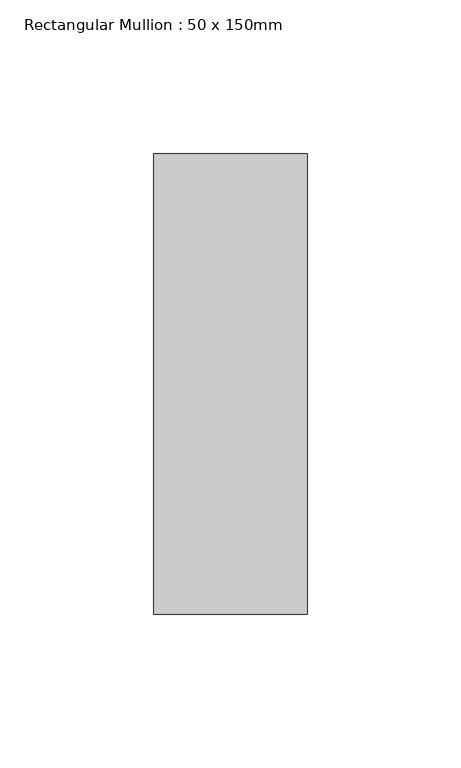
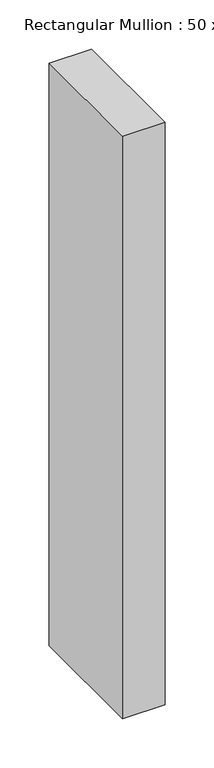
"""IFC4 building model written with IfcOpenShell, lengths in millimetres: member geometry, Rectangular Mullion : 50 x 150mm."""

from ifc_helpers import new_model, si_unit, frame, origin, place, context, project, spatial, polyline, outline, extrude, source, transform, mapped, element, save


def rectangular_mullion_50_x_150mm_4130c5bf(model_context):
    return source(origin(), model_context, "Body", "SweptSolid", [
        extrude(outline(polyline([(0.0, 75.0), (0.0, -75.0), (-50.0, -75.0), (-50.0, 75.0), (0.0, 75.0)])), frame((0.0, 0.0, -724.9999998), z_axis=(0.0, 0.0, 1.0), x_axis=(1.0, 0.0, 0.0)), (0.0, 0.0, 1.0), 724.9999998),
    ])


if __name__ == "__main__":
    model = new_model("IFC4")
    model_context = context("Model", 3, world=origin())
    ifc_project = project(units=[si_unit("LENGTHUNIT", "METRE", prefix="MILLI")], contexts=[model_context])
    site = spatial("IfcSite", under=ifc_project)
    building = spatial("IfcBuilding", under=site)
    placement = place(None, origin())
    rectangular_mullion_50_x_150mm_shape = rectangular_mullion_50_x_150mm_4130c5bf(model_context)
    element("IfcMember", 1, ObjectType="Rectangular Mullion : 50 x 150mm", at=placement, inside=building, context=model_context, shape_type="MappedRepresentation", body=[
        mapped(rectangular_mullion_50_x_150mm_shape, transform((0.0, 0.0, 0.0), x_axis=(1.0, 0.0, 0.0), y_axis=(0.0, 1.0, 0.0), z_axis=(0.0, 0.0, 1.0))),
    ])
    save(model, "model.ifc")
